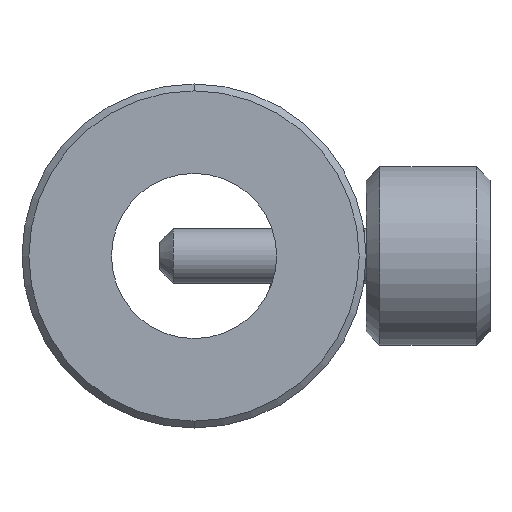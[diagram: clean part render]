
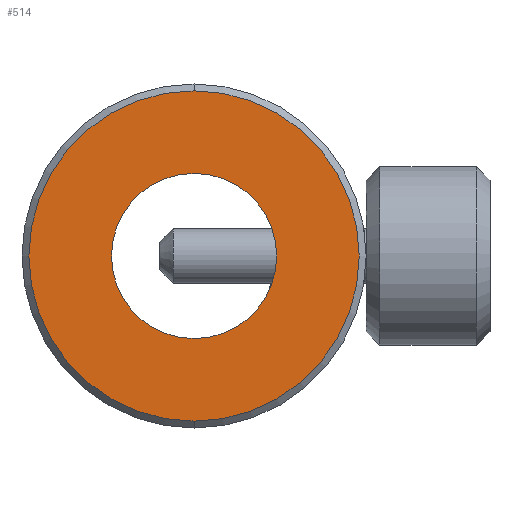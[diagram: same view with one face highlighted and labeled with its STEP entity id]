
A CAD part, front view. The second image highlights one B-rep face of the part: STEP entity #514.
In plain terms, the highlighted planar face has unit normal (0, -1, 0).
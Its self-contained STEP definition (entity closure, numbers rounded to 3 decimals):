
#12 = AXIS2_PLACEMENT_3D ( 'NONE', #334, #465, #726 ) ;
#30 = VERTEX_POINT ( 'NONE', #157 ) ;
#55 = CARTESIAN_POINT ( 'NONE',  ( 0.741, -2.74, -6. ) ) ;
#74 = ORIENTED_EDGE ( 'NONE', *, *, #375, .T. ) ;
#75 = CARTESIAN_POINT ( 'NONE',  ( 0.741, -2.74, -12. ) ) ;
#114 = EDGE_LOOP ( 'NONE', ( #670, #74 ) ) ;
#157 = CARTESIAN_POINT ( 'NONE',  ( 0.741, -2.74, 12. ) ) ;
#169 = FACE_BOUND ( 'NONE', #566, .T. ) ;
#184 = CARTESIAN_POINT ( 'NONE',  ( 0.741, -2.74, 0. ) ) ;
#191 = FACE_OUTER_BOUND ( 'NONE', #114, .T. ) ;
#208 = CARTESIAN_POINT ( 'NONE',  ( 0.741, -2.74, 0. ) ) ;
#210 = DIRECTION ( 'NONE',  ( 0., 0., 1. ) ) ;
#215 = CIRCLE ( 'NONE', #770, 12. ) ;
#279 = AXIS2_PLACEMENT_3D ( 'NONE', #208, #660, #210 ) ;
#285 = VERTEX_POINT ( 'NONE', #55 ) ;
#299 = DIRECTION ( 'NONE',  ( 0., 1., 0. ) ) ;
#304 = PLANE ( 'NONE',  #590 ) ;
#321 = VERTEX_POINT ( 'NONE', #75 ) ;
#334 = CARTESIAN_POINT ( 'NONE',  ( 0.741, -2.74, 0. ) ) ;
#375 = EDGE_CURVE ( 'NONE', #321, #30, #614, .T. ) ;
#378 = DIRECTION ( 'NONE',  ( 0., 0., 1. ) ) ;
#385 = EDGE_CURVE ( 'NONE', #285, #404, #625, .T. ) ;
#404 = VERTEX_POINT ( 'NONE', #655 ) ;
#449 = CARTESIAN_POINT ( 'NONE',  ( 0.741, -2.74, 0. ) ) ;
#465 = DIRECTION ( 'NONE',  ( 0., -1., 0. ) ) ;
#473 = CARTESIAN_POINT ( 'NONE',  ( 0.741, -2.74, 0. ) ) ;
#505 = EDGE_CURVE ( 'NONE', #30, #321, #215, .T. ) ;
#514 = ADVANCED_FACE ( 'NONE', ( #191, #169 ), #304, .F. ) ;
#539 = CIRCLE ( 'NONE', #702, 6. ) ;
#558 = DIRECTION ( 'NONE',  ( 0., 0., 1. ) ) ;
#563 = ORIENTED_EDGE ( 'NONE', *, *, #643, .T. ) ;
#566 = EDGE_LOOP ( 'NONE', ( #675, #563 ) ) ;
#590 = AXIS2_PLACEMENT_3D ( 'NONE', #184, #299, #558 ) ;
#612 = DIRECTION ( 'NONE',  ( 0., -1., 0. ) ) ;
#614 = CIRCLE ( 'NONE', #12, 12. ) ;
#625 = CIRCLE ( 'NONE', #279, 6. ) ;
#643 = EDGE_CURVE ( 'NONE', #404, #285, #539, .T. ) ;
#655 = CARTESIAN_POINT ( 'NONE',  ( 0.741, -2.74, 6. ) ) ;
#660 = DIRECTION ( 'NONE',  ( 0., 1., 0. ) ) ;
#670 = ORIENTED_EDGE ( 'NONE', *, *, #505, .T. ) ;
#675 = ORIENTED_EDGE ( 'NONE', *, *, #385, .T. ) ;
#676 = DIRECTION ( 'NONE',  ( 0., 0., 1. ) ) ;
#702 = AXIS2_PLACEMENT_3D ( 'NONE', #449, #768, #378 ) ;
#726 = DIRECTION ( 'NONE',  ( 0., 0., 1. ) ) ;
#768 = DIRECTION ( 'NONE',  ( 0., 1., 0. ) ) ;
#770 = AXIS2_PLACEMENT_3D ( 'NONE', #473, #612, #676 ) ;
